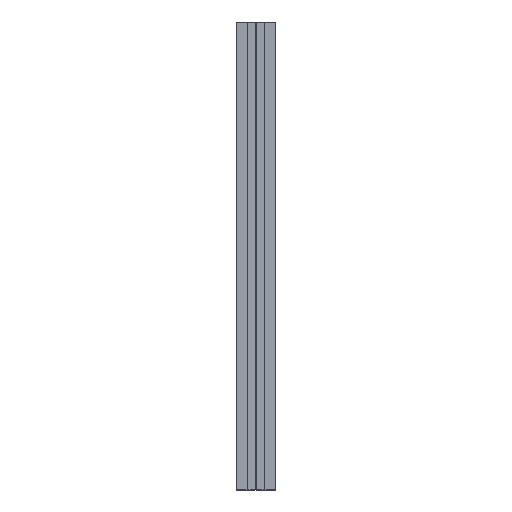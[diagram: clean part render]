
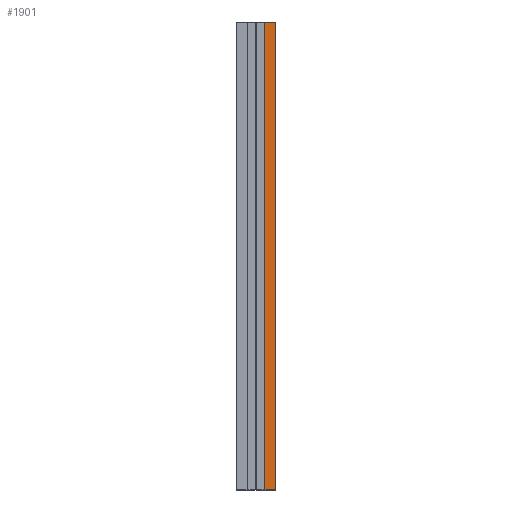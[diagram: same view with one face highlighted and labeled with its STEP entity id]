
A CAD part, front view. The second image highlights one B-rep face of the part: STEP entity #1901.
In plain terms, the highlighted planar face has unit normal (0, -1, 0).
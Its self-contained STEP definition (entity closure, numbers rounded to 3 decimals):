
#633=DIRECTION('',(0.,0.,1.));
#634=VECTOR('',#633,1206.);
#635=CARTESIAN_POINT('',(23.186,-84.65,-603.));
#636=LINE('',#635,#634);
#637=DIRECTION('',(1.,0.,0.));
#638=VECTOR('',#637,27.014);
#639=CARTESIAN_POINT('',(23.186,-84.65,603.));
#640=LINE('',#639,#638);
#641=DIRECTION('',(0.,0.,-1.));
#642=VECTOR('',#641,1206.);
#643=CARTESIAN_POINT('',(50.2,-84.65,603.));
#644=LINE('',#643,#642);
#645=DIRECTION('',(-1.,0.,0.));
#646=VECTOR('',#645,27.014);
#647=CARTESIAN_POINT('',(50.2,-84.65,-603.));
#648=LINE('',#647,#646);
#1221=CARTESIAN_POINT('',(50.2,-84.65,-603.));
#1222=CARTESIAN_POINT('',(23.186,-84.65,-603.));
#1223=VERTEX_POINT('',#1221);
#1224=VERTEX_POINT('',#1222);
#1405=CARTESIAN_POINT('',(50.2,-84.65,603.));
#1406=CARTESIAN_POINT('',(23.186,-84.65,603.));
#1407=VERTEX_POINT('',#1405);
#1408=VERTEX_POINT('',#1406);
#1886=CARTESIAN_POINT('',(-50.5,-84.65,-603.));
#1887=DIRECTION('',(0.,-1.,0.));
#1888=DIRECTION('',(1.,0.,0.));
#1889=AXIS2_PLACEMENT_3D('',#1886,#1887,#1888);
#1890=PLANE('',#1889);
#1892=ORIENTED_EDGE('',*,*,#1891,.T.);
#1894=ORIENTED_EDGE('',*,*,#1893,.T.);
#1896=ORIENTED_EDGE('',*,*,#1895,.T.);
#1898=ORIENTED_EDGE('',*,*,#1897,.T.);
#1899=EDGE_LOOP('',(#1892,#1894,#1896,#1898));
#1900=FACE_OUTER_BOUND('',#1899,.F.);
#1901=ADVANCED_FACE('',(#1900),#1890,.T.);
#1891=EDGE_CURVE('',#1224,#1408,#636,.T.);
#1893=EDGE_CURVE('',#1408,#1407,#640,.T.);
#1895=EDGE_CURVE('',#1407,#1223,#644,.T.);
#1897=EDGE_CURVE('',#1223,#1224,#648,.T.);
